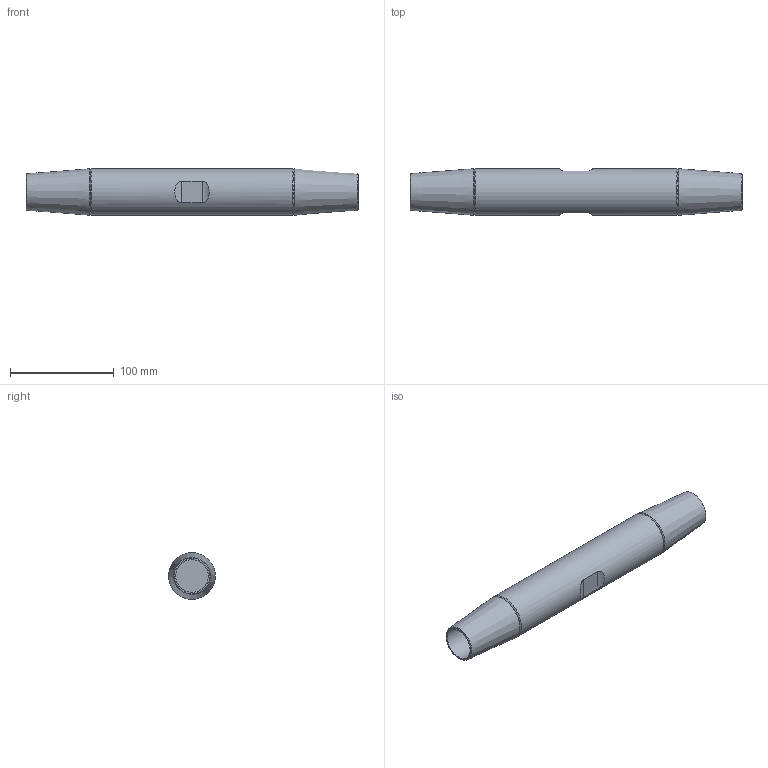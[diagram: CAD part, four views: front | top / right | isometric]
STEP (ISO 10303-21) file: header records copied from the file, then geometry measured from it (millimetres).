
FILE_DESCRIPTION(/* description */ (''),/* implementation_level */ '2;1');
FILE_NAME(/* name */ 'G:\Engineering\700 CAD\Internet-PX-1-step-igs-dxf\520-MUF-Arbeitsdateien\520-030-MUF.stp',/* time_stamp */ '2020-06-30T13:14:32+02:00',/* author */ ('schwarz'),/* organization */ (''),/* preprocessor_version */ 'ST-DEVELOPER v16.1',/* originating_system */ 'Autodesk Inventor 2016',/* authorisation */ '');
FILE_SCHEMA (('AUTOMOTIVE_DESIGN { 1 0 10303 214 3 1 1 }'));
Length unit declared in the file: centimetre
Products named in the file (1): Zusammenbau Muffe 520 030 Kunde
Bounding box: 320 x 45 x 45 mm (x, y, z)
Volume: 393747.3 mm3; surface area: 54765.7 mm2
Topology: 1 solids, 1 shells, 21 faces, 43 edges, 27 vertices
Faces by surface type: cone 8, cylinder 7, plane 6
Full cylindrical faces by diameter (mm): 31.5 x2, 45 x1
Entity records: 613 total; most frequent: CARTESIAN_POINT 166, DIRECTION 80, ORIENTED_EDGE 60, EDGE_LOOP 36, AXIS2_PLACEMENT_3D 36, EDGE_CURVE 30, VERTEX_POINT 26, STYLED_ITEM 22
